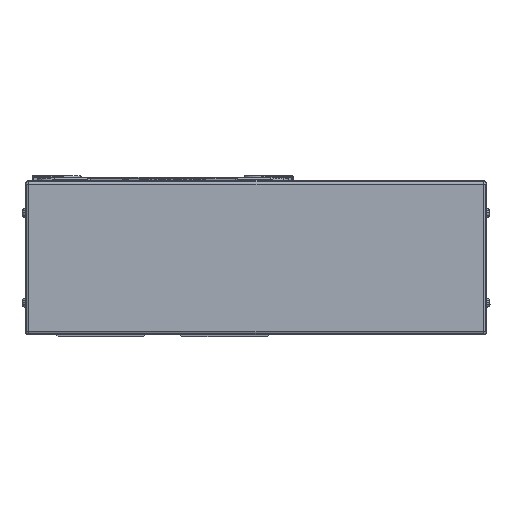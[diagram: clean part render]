
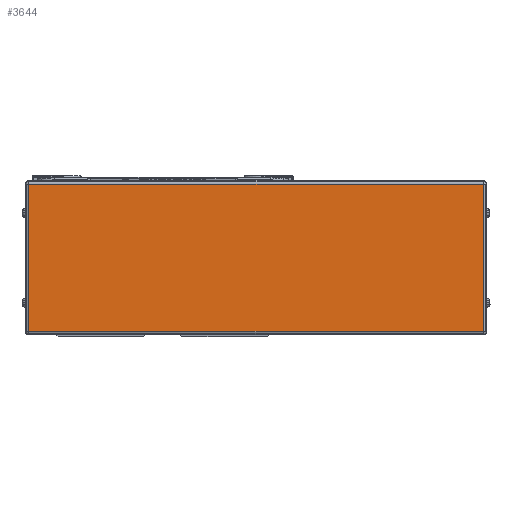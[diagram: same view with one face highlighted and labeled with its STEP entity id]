
A CAD part, left-side view. The second image highlights one B-rep face of the part: STEP entity #3644.
In plain terms, the highlighted planar face has unit normal (-1, 0, 0).
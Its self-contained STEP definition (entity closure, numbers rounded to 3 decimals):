
#3644=ADVANCED_FACE('',(#8724),#8725,.T.);
#8724=FACE_OUTER_BOUND('',#16027,.T.);
#8725=PLANE('',#16028);
#16027=EDGE_LOOP('',(#26958,#26959,#26960,#26961));
#16028=AXIS2_PLACEMENT_3D('',#26962,#26963,#26964);
#26958=ORIENTED_EDGE('',*,*,#44055,.F.);
#26959=ORIENTED_EDGE('',*,*,#44056,.F.);
#26960=ORIENTED_EDGE('',*,*,#42773,.F.);
#26961=ORIENTED_EDGE('',*,*,#44057,.F.);
#26962=CARTESIAN_POINT('',(-45.,-180.5,0.));
#26963=DIRECTION('',(-1.0,0.,0.));
#26964=DIRECTION('',(0.,0.,1.0));
#42773=EDGE_CURVE('',#51524,#51526,#51527,.T.);
#44055=EDGE_CURVE('',#53583,#53584,#53585,.T.);
#44056=EDGE_CURVE('',#51526,#53583,#53586,.T.);
#44057=EDGE_CURVE('',#53584,#51524,#53587,.T.);
#51524=VERTEX_POINT('',#63584);
#51526=VERTEX_POINT('',#63586);
#51527=LINE('',#63587,#63588);
#53583=VERTEX_POINT('',#66867);
#53584=VERTEX_POINT('',#66868);
#53585=LINE('',#66869,#66870);
#53586=LINE('',#66871,#66872);
#53587=LINE('',#66873,#66874);
#63584=CARTESIAN_POINT('',(-45.,74.5,-41.));
#63586=CARTESIAN_POINT('',(-45.,74.5,41.));
#63587=CARTESIAN_POINT('',(-45.,74.5,0.));
#63588=VECTOR('',#77625,10.0);
#66867=CARTESIAN_POINT('',(-45.,-178.5,41.));
#66868=CARTESIAN_POINT('',(-45.,-178.5,-41.));
#66869=CARTESIAN_POINT('',(-45.,-178.5,0.));
#66870=VECTOR('',#79294,10.0);
#66871=CARTESIAN_POINT('',(-45.,-180.5,41.));
#66872=VECTOR('',#79295,10.0);
#66873=CARTESIAN_POINT('',(-45.,-180.5,-41.));
#66874=VECTOR('',#79296,10.0);
#77625=DIRECTION('',(0.,0.,1.0));
#79294=DIRECTION('',(0.,0.,-1.0));
#79295=DIRECTION('',(0.,-1.0,0.));
#79296=DIRECTION('',(0.,1.0,0.));
